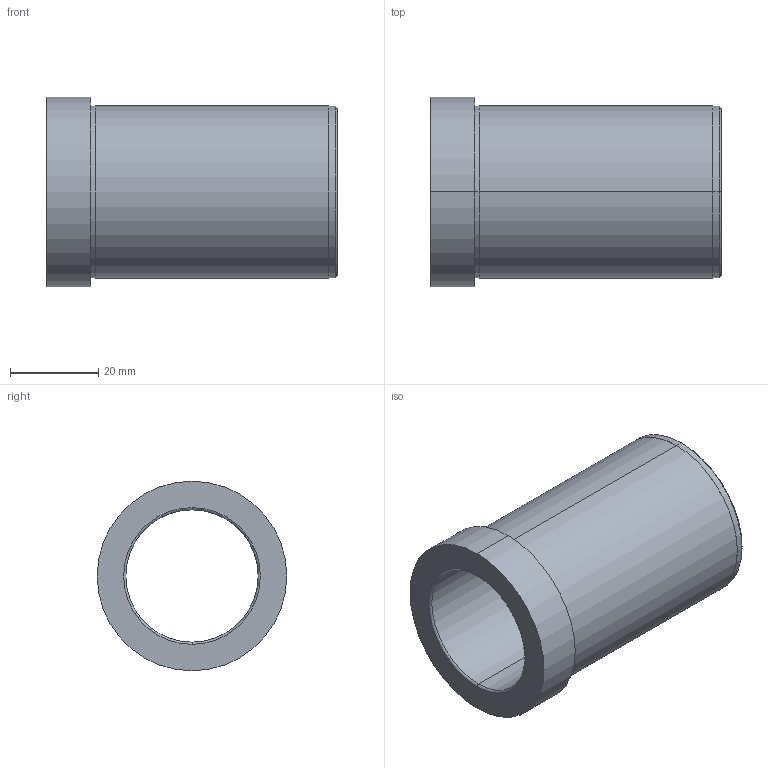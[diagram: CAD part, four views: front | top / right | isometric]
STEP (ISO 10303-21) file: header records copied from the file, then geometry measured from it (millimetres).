
FILE_DESCRIPTION( ( 'STEP AP203' ), '1' );
FILE_NAME( 'C:/Projects/D20 - 30x66.step', '2002-12-31T23:58:21', ( ' ' ), ( ' ' ), 'XStep 1.0', ' ', ' ' );
FILE_SCHEMA( ( 'CONFIG_CONTROL_DESIGN' ) );
Length unit declared in the file: metre
Products named in the file (1): 1
Bounding box: 66 x 43 x 43 mm (x, y, z)
Volume: 34806 mm3; surface area: 15852.5 mm2
Topology: 1 solids, 1 shells, 21 faces, 42 edges, 26 vertices
Faces by surface type: revolution 12, bspline 9
Entity records: 671 total; most frequent: CARTESIAN_POINT 201, ORIENTED_EDGE 84, DIRECTION 78, EDGE_CURVE 42, AXIS2_PLACEMENT_3D 27, EDGE_LOOP 26, VERTEX_POINT 26, CIRCLE 26
